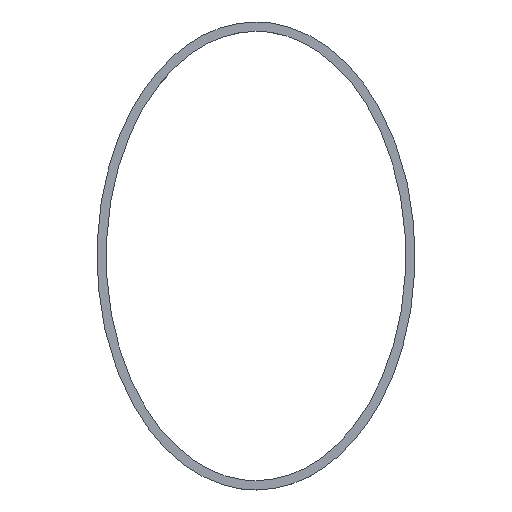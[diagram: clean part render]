
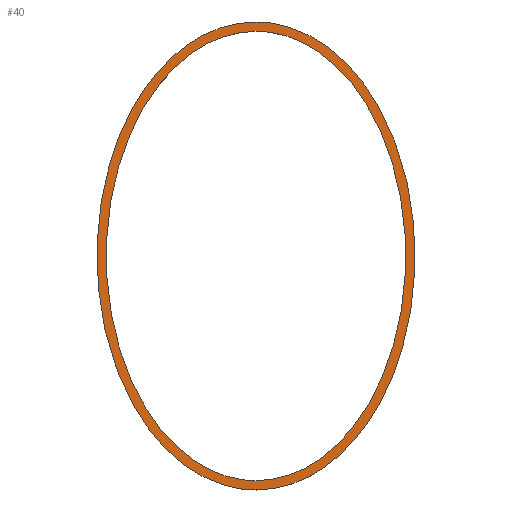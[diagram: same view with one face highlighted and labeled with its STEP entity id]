
A CAD part, top view. The second image highlights one B-rep face of the part: STEP entity #40.
In plain terms, the highlighted planar face has unit normal (0, 0, 1).
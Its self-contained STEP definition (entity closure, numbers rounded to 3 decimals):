
#4 = CARTESIAN_POINT ( 'NONE',  ( 31.172, 44.906, 0. ) ) ;
#19 = DIRECTION ( 'NONE',  ( -1., 0., 0. ) ) ;
#25 = CARTESIAN_POINT ( 'NONE',  ( -43.569, 0., 0. ) ) ;
#28 = VERTEX_POINT ( 'NONE', #213 ) ;
#40 = ADVANCED_FACE ( 'NONE', ( #279, #188 ), #68, .F. ) ;
#41 = CARTESIAN_POINT ( 'NONE',  ( -80., 60., 0. ) ) ;
#49 = CARTESIAN_POINT ( 'NONE',  ( -2.863, 62.5, 0. ) ) ;
#50 = CARTESIAN_POINT ( 'NONE',  ( 40.362, 24.213, 0. ) ) ;
#52 = CARTESIAN_POINT ( 'NONE',  ( 2.863, -62.5, 0. ) ) ;
#53 = CARTESIAN_POINT ( 'NONE',  ( -8.589, -61.651, 0. ) ) ;
#61 = ORIENTED_EDGE ( 'NONE', *, *, #63, .F. ) ;
#63 = EDGE_CURVE ( 'NONE', #241, #157, #99, .T. ) ;
#68 = PLANE ( 'NONE',  #171 ) ;
#74 = CARTESIAN_POINT ( 'NONE',  ( 43.569, 0., 0. ) ) ;
#79 = ORIENTED_EDGE ( 'NONE', *, *, #280, .T. ) ;
#84 = CARTESIAN_POINT ( 'NONE',  ( 80., -60., 0. ) ) ;
#96 = CARTESIAN_POINT ( 'NONE',  ( 0., 62.5, 0. ) ) ;
#98 = CARTESIAN_POINT ( 'NONE',  ( 19.476, -56.687, 0. ) ) ;
#99 =( BOUNDED_CURVE ( )  B_SPLINE_CURVE ( 3, ( #255, #41, #140, #236 ),
 .UNSPECIFIED., .F., .T. ) 
 B_SPLINE_CURVE_WITH_KNOTS ( ( 4, 4 ),
 ( 3.142, 6.283 ),
 .UNSPECIFIED. ) 
 CURVE ( )  GEOMETRIC_REPRESENTATION_ITEM ( )  RATIONAL_B_SPLINE_CURVE ( ( 1., 0.333, 0.333, 1. ) ) 
 REPRESENTATION_ITEM ( '' )  );
#101 = B_SPLINE_CURVE_WITH_KNOTS ( 'NONE', 3,
 ( #96, #49, #149, #195, #265, #146, #25, #127, #169, #259, #53, #242, #218 ),
 .UNSPECIFIED., .F., .F.,
 ( 4, 1, 1, 1, 1, 1, 1, 1, 1, 1, 4 ),
 ( 3.142, 3.338, 3.534, 3.927, 4.32, 4.712, 5.105, 5.498, 5.89, 6.087, 6.283 ),
 .UNSPECIFIED. ) ;
#103 = CARTESIAN_POINT ( 'NONE',  ( 0., 62.5, 0. ) ) ;
#125 = CARTESIAN_POINT ( 'NONE',  ( 0., -60., 0. ) ) ;
#127 = CARTESIAN_POINT ( 'NONE',  ( -40.362, -24.213, 0. ) ) ;
#128 = CARTESIAN_POINT ( 'NONE',  ( 19.476, 56.687, 0. ) ) ;
#133 = EDGE_LOOP ( 'NONE', ( #79, #223 ) ) ;
#139 = CARTESIAN_POINT ( 'NONE',  ( 0., 62.5, 0. ) ) ;
#140 = CARTESIAN_POINT ( 'NONE',  ( -80., -60., 0. ) ) ;
#146 = CARTESIAN_POINT ( 'NONE',  ( -40.362, 24.213, 0. ) ) ;
#148 = CARTESIAN_POINT ( 'NONE',  ( 8.589, -61.651, 0. ) ) ;
#149 = CARTESIAN_POINT ( 'NONE',  ( -8.589, 61.651, 0. ) ) ;
#151 = CARTESIAN_POINT ( 'NONE',  ( 40.362, -24.213, 0. ) ) ;
#152 = CARTESIAN_POINT ( 'NONE',  ( 0., 60., 0. ) ) ;
#157 = VERTEX_POINT ( 'NONE', #125 ) ;
#161 = B_SPLINE_CURVE_WITH_KNOTS ( 'NONE', 3,
 ( #244, #52, #148, #98, #289, #151, #74, #50, #4, #128, #194, #172, #103 ),
 .UNSPECIFIED., .F., .F.,
 ( 4, 1, 1, 1, 1, 1, 1, 1, 1, 1, 4 ),
 ( 0., 0.196, 0.393, 0.785, 1.178, 1.571, 1.963, 2.356, 2.749, 2.945, 3.142 ),
 .UNSPECIFIED. ) ;
#169 = CARTESIAN_POINT ( 'NONE',  ( -31.172, -44.906, 0. ) ) ;
#171 = AXIS2_PLACEMENT_3D ( 'NONE', #139, #235, #19 ) ;
#172 = CARTESIAN_POINT ( 'NONE',  ( 2.863, 62.5, 0. ) ) ;
#174 = ORIENTED_EDGE ( 'NONE', *, *, #232, .F. ) ;
#175 = EDGE_CURVE ( 'NONE', #234, #28, #101, .T. ) ;
#184 = CARTESIAN_POINT ( 'NONE',  ( 80., 60., 0. ) ) ;
#188 = FACE_OUTER_BOUND ( 'NONE', #133, .T. ) ;
#194 = CARTESIAN_POINT ( 'NONE',  ( 8.589, 61.651, 0. ) ) ;
#195 = CARTESIAN_POINT ( 'NONE',  ( -19.476, 56.687, 0. ) ) ;
#213 = CARTESIAN_POINT ( 'NONE',  ( 0., -62.5, 0. ) ) ;
#218 = CARTESIAN_POINT ( 'NONE',  ( 0., -62.5, 0. ) ) ;
#223 = ORIENTED_EDGE ( 'NONE', *, *, #175, .T. ) ;
#232 = EDGE_CURVE ( 'NONE', #157, #241, #252, .T. ) ;
#234 = VERTEX_POINT ( 'NONE', #296 ) ;
#235 = DIRECTION ( 'NONE',  ( 0., 0., -1. ) ) ;
#236 = CARTESIAN_POINT ( 'NONE',  ( 0., -60., 0. ) ) ;
#241 = VERTEX_POINT ( 'NONE', #152 ) ;
#242 = CARTESIAN_POINT ( 'NONE',  ( -2.863, -62.5, 0. ) ) ;
#244 = CARTESIAN_POINT ( 'NONE',  ( 0., -62.5, 0. ) ) ;
#249 = CARTESIAN_POINT ( 'NONE',  ( 0., -60., 0. ) ) ;
#252 =( BOUNDED_CURVE ( )  B_SPLINE_CURVE ( 3, ( #249, #84, #184, #272 ),
 .UNSPECIFIED., .F., .T. ) 
 B_SPLINE_CURVE_WITH_KNOTS ( ( 4, 4 ),
 ( 0., 3.142 ),
 .UNSPECIFIED. ) 
 CURVE ( )  GEOMETRIC_REPRESENTATION_ITEM ( )  RATIONAL_B_SPLINE_CURVE ( ( 1., 0.333, 0.333, 1. ) ) 
 REPRESENTATION_ITEM ( '' )  );
#255 = CARTESIAN_POINT ( 'NONE',  ( 0., 60., 0. ) ) ;
#259 = CARTESIAN_POINT ( 'NONE',  ( -19.476, -56.687, 0. ) ) ;
#265 = CARTESIAN_POINT ( 'NONE',  ( -31.172, 44.906, 0. ) ) ;
#266 = EDGE_LOOP ( 'NONE', ( #174, #61 ) ) ;
#272 = CARTESIAN_POINT ( 'NONE',  ( 0., 60., 0. ) ) ;
#279 = FACE_BOUND ( 'NONE', #266, .T. ) ;
#280 = EDGE_CURVE ( 'NONE', #28, #234, #161, .T. ) ;
#289 = CARTESIAN_POINT ( 'NONE',  ( 31.172, -44.906, 0. ) ) ;
#296 = CARTESIAN_POINT ( 'NONE',  ( 0., 62.5, 0. ) ) ;
